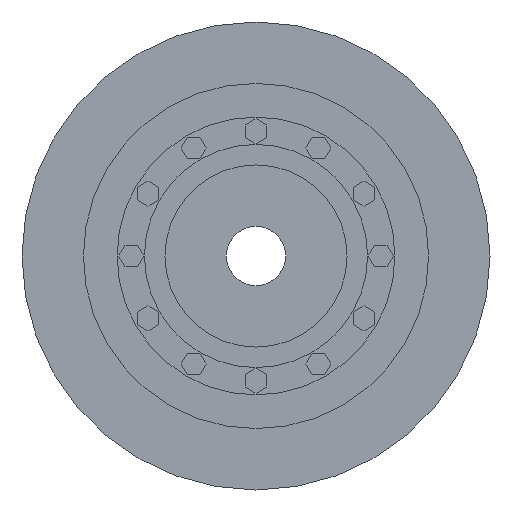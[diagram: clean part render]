
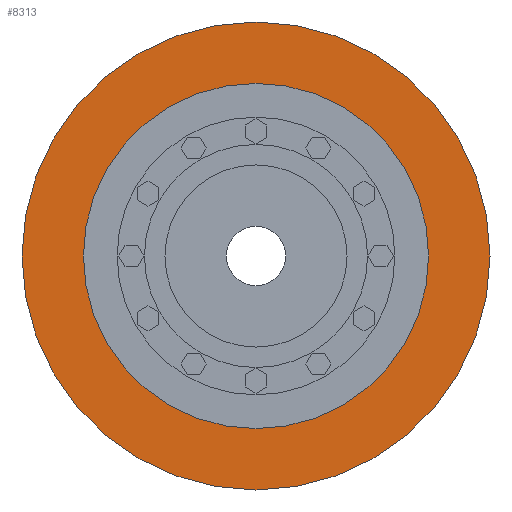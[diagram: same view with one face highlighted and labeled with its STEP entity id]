
A CAD part, left-side view. The second image highlights one B-rep face of the part: STEP entity #8313.
In plain terms, the highlighted planar face has unit normal (-1, 0, 0).
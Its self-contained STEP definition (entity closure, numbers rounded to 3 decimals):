
#8110=CARTESIAN_POINT('',(-46.,0.,0.));
#8111=DIRECTION('',(-1.,0.,0.));
#8112=DIRECTION('',(0.,1.,0.));
#8113=AXIS2_PLACEMENT_3D('',#8110,#8111,#8112);
#8115=CARTESIAN_POINT('',(-46.,0.,0.));
#8116=DIRECTION('',(1.,0.,0.));
#8117=DIRECTION('',(0.,1.,0.));
#8118=AXIS2_PLACEMENT_3D('',#8115,#8116,#8117);
#8120=CARTESIAN_POINT('',(-46.,0.,0.));
#8121=DIRECTION('',(1.,0.,0.));
#8122=DIRECTION('',(0.,1.,0.));
#8123=AXIS2_PLACEMENT_3D('',#8120,#8121,#8122);
#8133=CARTESIAN_POINT('',(-46.,0.,0.));
#8134=DIRECTION('',(-1.,0.,0.));
#8135=DIRECTION('',(0.,1.,0.));
#8136=AXIS2_PLACEMENT_3D('',#8133,#8134,#8135);
#8156=CARTESIAN_POINT('',(-46.,189.6,0.));
#8158=VERTEX_POINT('',#8156);
#8168=CARTESIAN_POINT('',(-46.,-189.6,0.));
#8170=VERTEX_POINT('',#8168);
#8173=CARTESIAN_POINT('',(-46.,257.,0.));
#8175=VERTEX_POINT('',#8173);
#8177=CARTESIAN_POINT('',(-46.,-257.,0.));
#8179=VERTEX_POINT('',#8177);
#8298=CARTESIAN_POINT('',(-46.,0.,0.));
#8299=DIRECTION('',(1.,0.,0.));
#8300=DIRECTION('',(0.,-1.,0.));
#8301=AXIS2_PLACEMENT_3D('',#8298,#8299,#8300);
#8302=PLANE('',#8301);
#8303=ORIENTED_EDGE('',*,*,#8291,.F.);
#8304=ORIENTED_EDGE('',*,*,#8280,.T.);
#8305=EDGE_LOOP('',(#8303,#8304));
#8306=FACE_OUTER_BOUND('',#8305,.F.);
#8308=ORIENTED_EDGE('',*,*,#8307,.F.);
#8310=ORIENTED_EDGE('',*,*,#8309,.T.);
#8311=EDGE_LOOP('',(#8308,#8310));
#8312=FACE_BOUND('',#8311,.F.);
#8313=ADVANCED_FACE('',(#8306,#8312),#8302,.F.);
#8114=CIRCLE('',#8113,257.);
#8119=CIRCLE('',#8118,257.);
#8124=CIRCLE('',#8123,189.6);
#8137=CIRCLE('',#8136,189.6);
#8280=EDGE_CURVE('',#8175,#8179,#8119,.T.);
#8291=EDGE_CURVE('',#8175,#8179,#8114,.T.);
#8307=EDGE_CURVE('',#8158,#8170,#8124,.T.);
#8309=EDGE_CURVE('',#8158,#8170,#8137,.T.);
